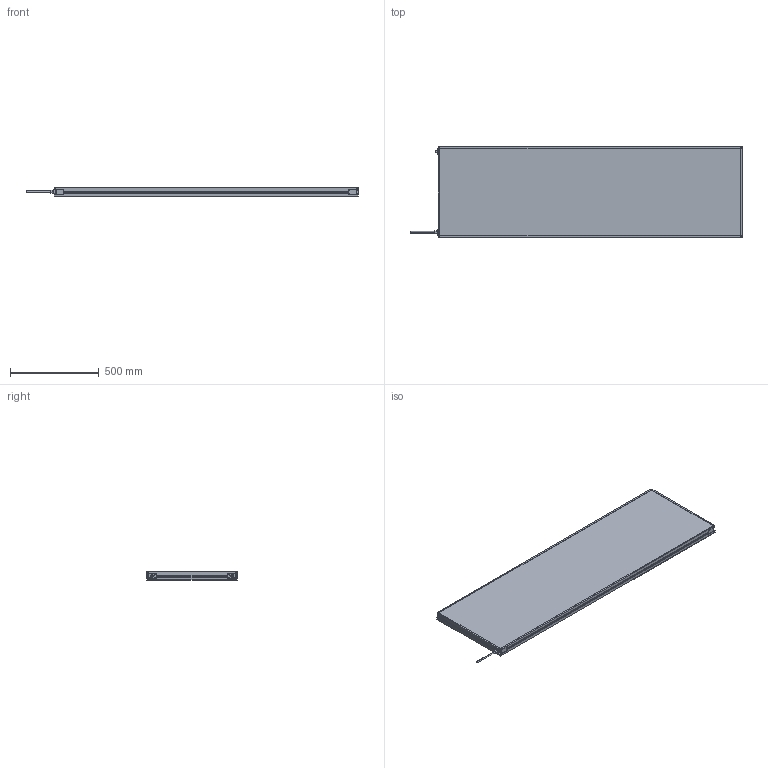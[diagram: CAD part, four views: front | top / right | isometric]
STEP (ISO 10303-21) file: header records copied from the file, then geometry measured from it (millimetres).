
FILE_DESCRIPTION (( 'STEP AP214' ), '1' );
FILE_NAME ('MBACK-xxxx-xxx-M1A2_CLIENT500x1700.STEP', '2022-04-01T11:42:18', ( '' ), ( '' ), 'SwSTEP 2.0', 'SolidWorks 2020', '' );
FILE_SCHEMA (( 'AUTOMOTIVE_DESIGN' ));
Length unit declared in the file: millimetre
Products named in the file (1): MBACK-xxxx-xxx-M1A2_CLIENT500x1700
Bounding box: 1867.4 x 508 x 45.5 mm (x, y, z)
Volume: 36156069.4 mm3; surface area: 2035733.7 mm2
Topology: 1 solids, 1 shells, 470 faces, 1210 edges, 804 vertices
Faces by surface type: plane 265, cylinder 117, bspline 80, cone 8
Entity records: 18046 total; most frequent: CARTESIAN_POINT 6837, ORIENTED_EDGE 2420, DIRECTION 2082, EDGE_CURVE 1210, VERTEX_POINT 804, LINE 800, VECTOR 800, AXIS2_PLACEMENT_3D 641
